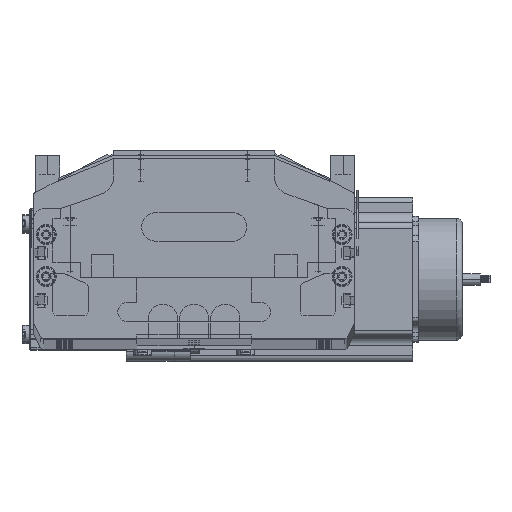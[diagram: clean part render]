
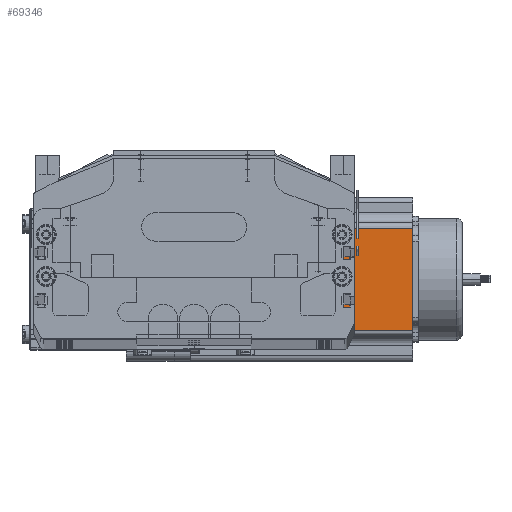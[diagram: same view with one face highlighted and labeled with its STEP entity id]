
A CAD part, top view. The second image highlights one B-rep face of the part: STEP entity #69346.
In plain terms, the highlighted planar face has unit normal (0, 0, 1) as drawn and (0, -1, 0) by its records, which use the part's own axes.
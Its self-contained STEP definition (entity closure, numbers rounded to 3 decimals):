
#15245 = DIRECTION ( 'NONE',  ( 0., 0., 1. ) ) ;
#15246 = VECTOR ( 'NONE', #15245, 1000. ) ;
#15247 = CARTESIAN_POINT ( 'NONE',  ( 69.74, 0., 116.5 ) ) ;
#15249 = LINE ( 'NONE', #15247, #15246 ) ;
#15955 = CARTESIAN_POINT ( 'NONE',  ( 69.74, 0., 0. ) ) ;
#15968 = CARTESIAN_POINT ( 'NONE',  ( 69.74, 0., 116.5 ) ) ;
#18077 = PLANE ( 'NONE',  #18142 ) ;
#18082 = FACE_OUTER_BOUND ( 'NONE', #69348, .T. ) ;
#18136 = CARTESIAN_POINT ( 'NONE',  ( 0., 0., 116.5 ) ) ;
#18142 = AXIS2_PLACEMENT_3D ( 'NONE', #18136, #18176, #18175 ) ;
#18175 = DIRECTION ( 'NONE',  ( 0., 0., 1. ) ) ;
#18176 = DIRECTION ( 'NONE',  ( 0., 1., 0. ) ) ;
#21133 = DIRECTION ( 'NONE',  ( 0., 0., -1. ) ) ;
#21134 = VECTOR ( 'NONE', #21133, 1000. ) ;
#21135 = CARTESIAN_POINT ( 'NONE',  ( 16.16, 0., 116.5 ) ) ;
#21141 = LINE ( 'NONE', #21135, #21134 ) ;
#21210 = DIRECTION ( 'NONE',  ( 1., 0., 0. ) ) ;
#21211 = VECTOR ( 'NONE', #21210, 1000. ) ;
#21212 = CARTESIAN_POINT ( 'NONE',  ( 0., 0., 116.5 ) ) ;
#21213 = LINE ( 'NONE', #21212, #21211 ) ;
#21226 = CARTESIAN_POINT ( 'NONE',  ( 16.16, 0., 116.5 ) ) ;
#21257 = DIRECTION ( 'NONE',  ( 1., 0., 0. ) ) ;
#21267 = CARTESIAN_POINT ( 'NONE',  ( 0., 0., 0. ) ) ;
#21269 = LINE ( 'NONE', #21267, #21296 ) ;
#21296 = VECTOR ( 'NONE', #21257, 1000. ) ;
#41088 = CARTESIAN_POINT ( 'NONE',  ( 16.16, 0., 0. ) ) ;
#68689 = EDGE_CURVE ( 'NONE', #69010, #69015, #15249, .T. ) ;
#69010 = VERTEX_POINT ( 'NONE', #15955 ) ;
#69011 = ORIENTED_EDGE ( 'NONE', *, *, #68689, .T. ) ;
#69013 = ORIENTED_EDGE ( 'NONE', *, *, #69755, .T. ) ;
#69015 = VERTEX_POINT ( 'NONE', #15968 ) ;
#69346 = ADVANCED_FACE ( 'NONE', ( #18082 ), #18077, .F. ) ;
#69348 = EDGE_LOOP ( 'NONE', ( #69013, #69011, #82040, #78344 ) ) ;
#69714 = EDGE_CURVE ( 'NONE', #69739, #82041, #21141, .T. ) ;
#69739 = VERTEX_POINT ( 'NONE', #21226 ) ;
#69740 = EDGE_CURVE ( 'NONE', #69739, #69015, #21213, .T. ) ;
#69755 = EDGE_CURVE ( 'NONE', #82041, #69010, #21269, .T. ) ;
#78344 = ORIENTED_EDGE ( 'NONE', *, *, #69714, .T. ) ;
#82040 = ORIENTED_EDGE ( 'NONE', *, *, #69740, .F. ) ;
#82041 = VERTEX_POINT ( 'NONE', #41088 ) ;
